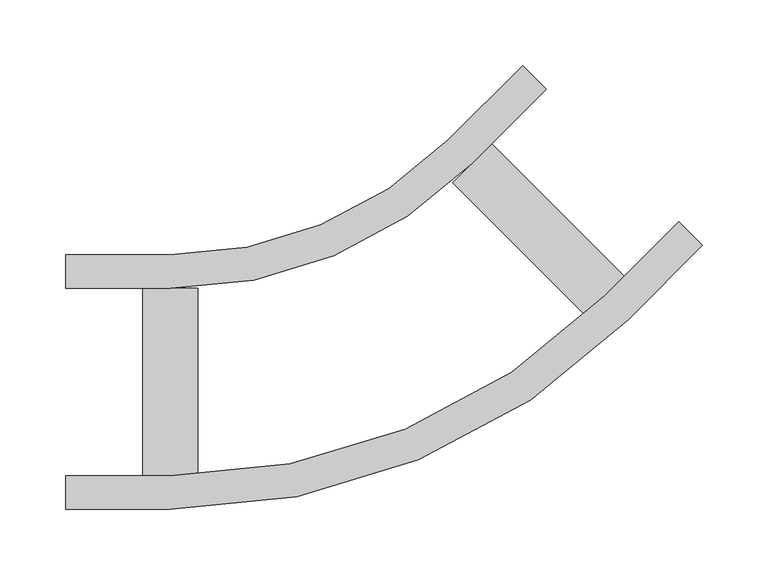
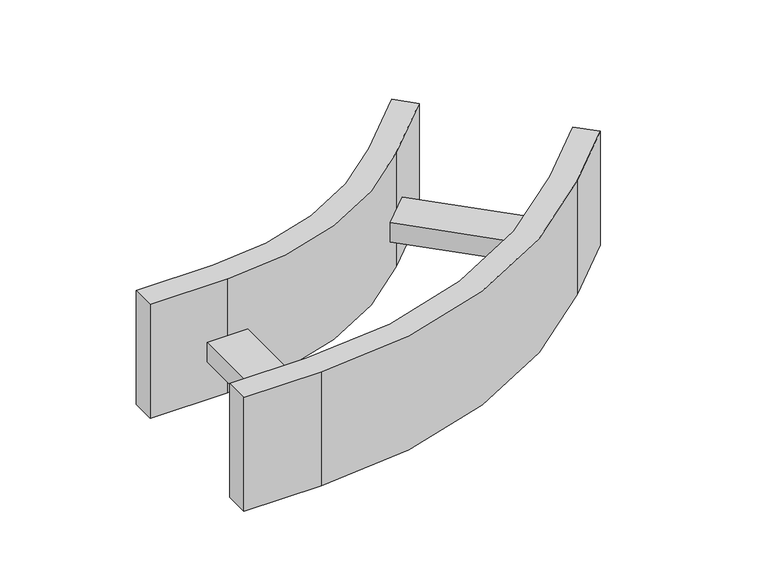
"""IFC4 building model written with IfcOpenShell, lengths in millimetres: cable carrier fitting geometry, Legrand_CableLadder_Swifts_Sapphire_FlatBend-13 : Hot Dip Galvanised (after manufacture)."""

from ifc_helpers import new_model, si_unit, point, frame, frame_2d, origin, place, context, project, spatial, polyline, circle_curve, trimmed, segment, composite_curve, outline, extrude, source, transform, mapped, element, save


def cable_carrier_fitting_0c686f5f(model_context):
    return source(origin(), model_context, "Body", "SweptSolid", [
        extrude(outline(polyline([(-185.4427843, -71.5), (-185.4427843, 71.5), (-143.4427843, 71.5), (-143.4427843, -71.5), (-185.4427843, -71.5)])), frame((0.0, 0.0, -21.0), z_axis=(0.0, 0.0, 1.0), x_axis=(1.0, 0.0, 0.0)), (0.0, 0.0, 1.0), 21.0),
        extrude(outline(polyline([(151.9875003, 50.8712306), (50.8712306, 151.9875003), (80.5697154, 181.6859851), (181.6859851, 80.5697154), (151.9875003, 50.8712306)])), frame((0.0, 0.0, -21.0), z_axis=(0.0, 0.0, 1.0), x_axis=(1.0, 0.0, 0.0)), (0.0, 0.0, 1.0), 21.0),
        extrude(outline(composite_curve([segment(polyline([(-244.4427843, -97.0), (-244.4427843, -71.5), (-164.4427843, -71.5)]), True, "CONTINUOUS"), segment(trimmed(circle_curve(frame_2d((-164.4427843, 397.0)), 468.5), [point((-164.4427843, -71.5))], [point((166.8367427, 65.720473))], True, "CARTESIAN"), True, "CONTINUOUS"), segment(polyline([(166.8367427, 65.720473), (223.4052852, 122.2890155), (241.4365081, 104.2577926), (184.8679656, 47.6892501)]), True, "CONTINUOUS"), segment(trimmed(circle_curve(frame_2d((-164.4427843, 397.0)), 494.0), [point((184.8679656, 47.6892501))], [point((-164.4427843, -97.0))], False, "CARTESIAN"), True, "CONTINUOUS"), segment(polyline([(-164.4427843, -97.0), (-244.4427843, -97.0)]), True, "CONTINUOUS")], self_intersect=False)), frame((0.0, 0.0, -62.5), z_axis=(0.0, 0.0, 1.0), x_axis=(1.0, 0.0, 0.0)), (0.0, 0.0, 1.0), 125.0),
        extrude(outline(composite_curve([segment(polyline([(-244.4427843, 71.5), (-244.4427843, 97.0), (-164.4427843, 97.0)]), True, "CONTINUOUS"), segment(trimmed(circle_curve(frame_2d((-164.4427843, 397.0)), 300.0), [point((-164.4427843, 97.0))], [point((47.6892501, 184.8679656))], True, "CARTESIAN"), True, "CONTINUOUS"), segment(polyline([(47.6892501, 184.8679656), (104.2577926, 241.4365081), (122.2890155, 223.4052852), (65.720473, 166.8367427)]), True, "CONTINUOUS"), segment(trimmed(circle_curve(frame_2d((-164.4427843, 397.0)), 325.5), [point((65.720473, 166.8367427))], [point((-164.4427843, 71.5))], False, "CARTESIAN"), True, "CONTINUOUS"), segment(polyline([(-164.4427843, 71.5), (-244.4427843, 71.5)]), True, "CONTINUOUS")], self_intersect=False)), frame((0.0, 0.0, -62.5), z_axis=(0.0, 0.0, 1.0), x_axis=(1.0, 0.0, 0.0)), (0.0, 0.0, 1.0), 125.0),
    ])


if __name__ == "__main__":
    model = new_model("IFC4")
    model_context = context("Model", 3, world=origin())
    ifc_project = project(units=[si_unit("LENGTHUNIT", "METRE", prefix="MILLI")], contexts=[model_context])
    site = spatial("IfcSite", under=ifc_project)
    building = spatial("IfcBuilding", under=site)
    placement = place(None, origin())
    cable_carrier_fitting_shape = cable_carrier_fitting_0c686f5f(model_context)
    element("IfcCableCarrierFitting", 1, ObjectType="Legrand_CableLadder_Swifts_Sapphire_FlatBend-13 : Hot Dip Galvanised (after manufacture)", at=placement, inside=building, context=model_context, shape_type="MappedRepresentation", body=[
        mapped(cable_carrier_fitting_shape, transform((0.0, 0.0, 0.0), x_axis=(1.0, 0.0, 0.0), y_axis=(0.0, 1.0, 0.0), z_axis=(0.0, 0.0, 1.0))),
    ])
    save(model, "model.ifc")
